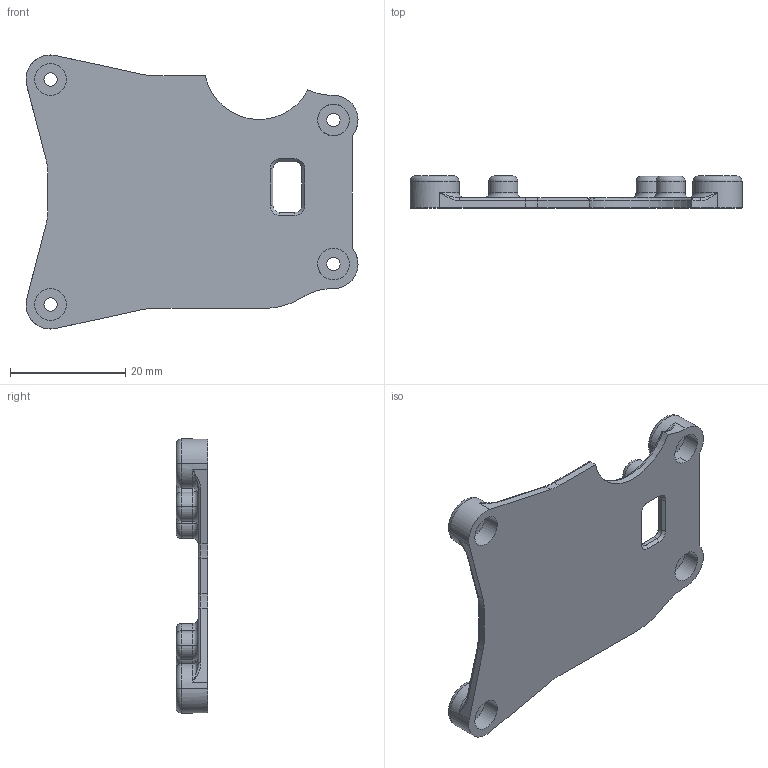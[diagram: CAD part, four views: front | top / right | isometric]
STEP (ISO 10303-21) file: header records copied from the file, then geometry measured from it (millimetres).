
FILE_DESCRIPTION((''),'2;1');
FILE_NAME('PINGMUGUDINGBAN','2025-09-17T19:09:23',('seeed'),(''),'CREO PARAMETRIC BY PTC INC, 2021284','CREO PARAMETRIC BY PTC INC, 2021284','');
FILE_SCHEMA(('CONFIG_CONTROL_DESIGN'));
Length unit declared in the file: millimetre
Products named in the file (1): PINGMUGUDINGBAN
Bounding box: 57.5 x 5.5 x 47.46 mm (x, y, z)
Volume: 4194.3 mm3; surface area: 5406.1 mm2
Topology: 1 solids, 1 shells, 168 faces, 385 edges, 234 vertices
Faces by surface type: cylinder 70, plane 43, torus 36, bspline 11, cone 8
Entity records: 5723 total; most frequent: CARTESIAN_POINT 1765, DIRECTION 904, ORIENTED_EDGE 770, EDGE_CURVE 385, AXIS2_PLACEMENT_3D 382, VERTEX_POINT 234, CIRCLE 225, EDGE_LOOP 193
